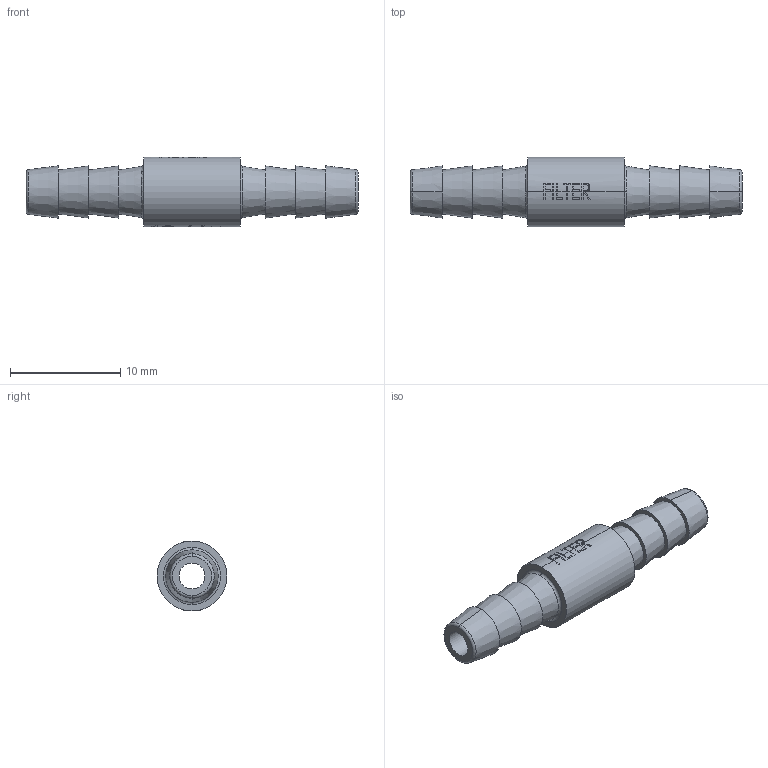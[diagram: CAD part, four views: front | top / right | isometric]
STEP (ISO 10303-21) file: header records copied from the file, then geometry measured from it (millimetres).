
FILE_DESCRIPTION(/* description */ ('SolidWorks IGES file using NURBS representation for surfaces '),/* implementation_level */ '2;1');
FILE_NAME(/* name */ 'K:\Normteile INVENTOR\Air-Logic\Filters\F-950-43-B85.IGS.ipt.stp',/* time_stamp */ '2020-05-27T10:39:44+02:00',/* author */ ('amarsh'),/* organization */ (''),/* preprocessor_version */ 'ST-DEVELOPER v18',/* originating_system */ 'Autodesk Inventor 2020',/* authorisation */ '');
FILE_SCHEMA (('AUTOMOTIVE_DESIGN { 1 0 10303 214 3 1 1 }'));
Length unit declared in the file: millimetre
Products named in the file (1): F-950-43-B85.IGS
Bounding box: 30.15 x 6.35 x 6.35 mm (x, y, z)
Volume: 468.4 mm3; surface area: 768.4 mm2
Topology: 1 solids, 1 shells, 170 faces, 482 edges, 324 vertices
Faces by surface type: plane 83, bspline 45, cylinder 24, cone 10, torus 8
Full cylindrical faces by diameter (mm): 2.36 x1
Entity records: 8826 total; most frequent: CARTESIAN_POINT 4481, ORIENTED_EDGE 964, DIRECTION 820, EDGE_CURVE 482, VERTEX_POINT 324, AXIS2_PLACEMENT_3D 296, LINE 228, VECTOR 228
